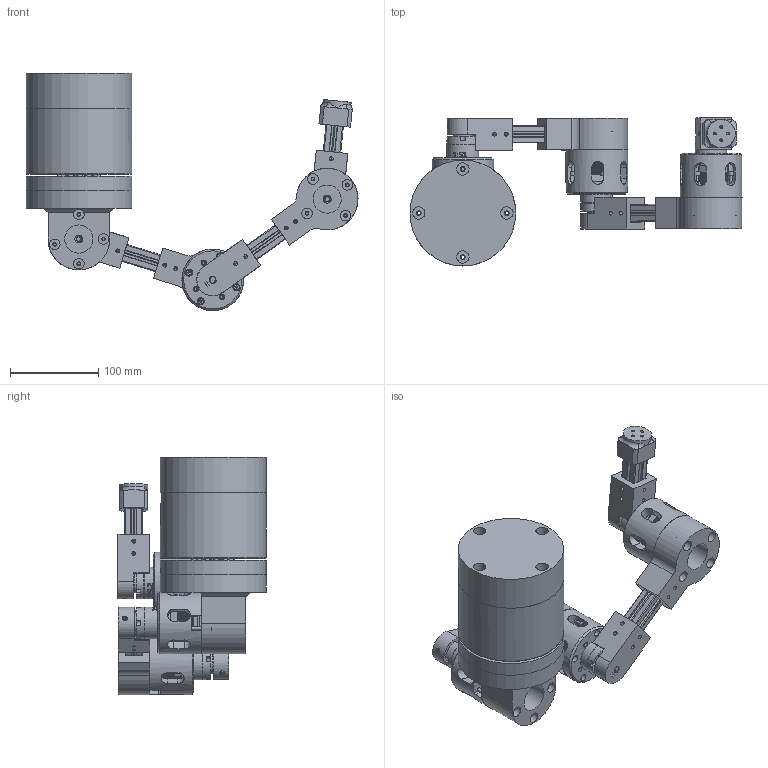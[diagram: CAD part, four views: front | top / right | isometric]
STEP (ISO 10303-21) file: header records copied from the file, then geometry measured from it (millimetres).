
FILE_DESCRIPTION(/* description */ (''),/* implementation_level */ '2;1');
FILE_NAME(/* name */ 'Assieme_bracci_nema_riduttore3.stp',/* time_stamp */ '2026-01-22T11:48:25+01:00',/* author */ ('Ryzen5700u'),/* organization */ (''),/* preprocessor_version */ 'ST-DEVELOPER v20',/* originating_system */ 'Autodesk Inventor 2025',/* authorisation */ '');
FILE_SCHEMA (('AUTOMOTIVE_DESIGN { 1 0 10303 214 3 1 1 }'));
Length unit declared in the file: millimetre
Products named in the file (21): Assieme_bracci_nema_riduttore2; tslot-20x20-3; blocco_nema_riduttore2; blocco_nema_riduttore; riduttore_nema17_3; blocco_base; tslot-20x20-5; blocco_nema_riduttore2_1; NEMA 42SHDC3030Z; blocco_nema; ANSI B18.3.1M - M4x0,7 x 50, FSHCSM; blocco_albero; riduttore_nema17; blocco_nema2; tslot-20x20-4; terminale; NEMA 17HS4401S-PG518; base_01; ISO 104 - 1 11 35 x 52 x 12; piatto_sopra_base; base_ferro
Assembly tree (39 placements, depth 3):
  Assieme_bracci_nema_riduttore2
    tslot-20x20-3
    blocco_nema_riduttore2
      NEMA 42SHDC3030Z
      blocco_nema
      ANSI B18.3.1M - M4x0,7 x 50, FSHCSM  x4
      blocco_albero
      riduttore_nema17
    blocco_nema_riduttore
      NEMA 42SHDC3030Z
      blocco_nema
      ANSI B18.3.1M - M4x0,7 x 50, FSHCSM  x4
      blocco_albero
      riduttore_nema17_3
    blocco_base
    tslot-20x20-5
    blocco_nema2  x2
    blocco_nema_riduttore2_1
      NEMA 42SHDC3030Z
      blocco_nema
      ANSI B18.3.1M - M4x0,7 x 50, FSHCSM  x4
      blocco_albero
      riduttore_nema17
    tslot-20x20-4
    terminale
    NEMA 17HS4401S-PG518
    base_01
    ISO 104 - 1 11 35 x 52 x 12
    piatto_sopra_base
    base_ferro
Bounding box: 376.94 x 168.09 x 269.61 mm (x, y, z)
Volume: 2828033.5 mm3; surface area: 550120.7 mm2
Topology: 60 solids, 60 shells, 4890 faces, 12259 edges, 7628 vertices
Faces by surface type: plane 3962, cylinder 610, torus 94, bspline 83, sphere 77, cone 64
Full cylindrical faces by diameter (mm): 1.6 x2, 3 x24, 3.2 x58, 3.4 x3, 4 x12, 4.2 x3, 4.3 x60, 4.68 x8, 5 x4, 5.3 x12, 5.7 x3, 5.75 x8, 5.8 x12, 6 x1, 6.5 x12, 7 x16, 8 x19, 8.2 x3, 10 x7, 12 x12, 14 x8, 16 x3, 18 x1, 20 x1, 22 x10, 23 x1, 32 x4, 35 x2, 35.8 x3, 36 x8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
Entity records: 87890 total; most frequent: CARTESIAN_POINT 16925, ORIENTED_EDGE 14080, DIRECTION 13618, EDGE_CURVE 7040, LINE 5822, VECTOR 5822, VERTEX_POINT 4474, AXIS2_PLACEMENT_3D 3898
